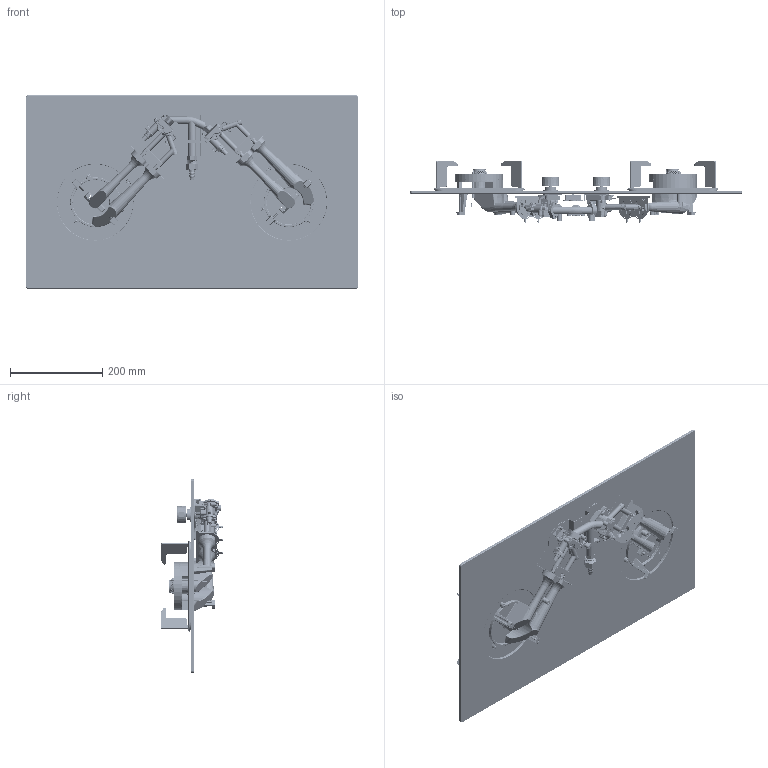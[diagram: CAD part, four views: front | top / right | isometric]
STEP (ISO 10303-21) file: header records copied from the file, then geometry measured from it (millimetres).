
FILE_DESCRIPTION((''),'2;1');
FILE_NAME('VG208_ASM_32_ASM','2024-08-27T16:45:56',('57202'),(''),'CREO PARAMETRIC BY PTC INC, 2020154','CREO PARAMETRIC BY PTC INC, 2020154','');
FILE_SCHEMA(('CONFIG_CONTROL_DESIGN'));
Products named in the file (43): VG208-BLMB_4; VG208-CYP_8; 105LIANTILUTOU20200824_8_2_1; 105QIAOGAI_13_2_2_1; 105QIAOGAI_13_2_2_2; 105QIAOGAI_13_2_2_ASM; 105SANPAIZHONGXIN2_12_2_1; 105NEIPIAN1112_3_2_1; 105LIANTIRANSHAOQI20200914_ASM__ASM; 1050001_ASM_2_ASM_1_ASM; VG208-DHZ_1; VG208-RDO_1; VG208-LUTOU_ASM_3_ASM; BREP_WITH_VOIDS_160470_MIR_6; MANIFOLD_SOLID_BREP_161506_MIR_; VG208-FTPZ_MIR_1_1; VG208-FTPZ_MIR_1_2; VG208-FTPZ_MIR_1_ASM; DK-890SZ-A18C_ASM_1_MIR_ASM_2_ASM; GDFMB_1_MIR_1; HDFMB_1_MIR_1; VG208-FT_ASM_3_ASM; GS01G-FSQ_1; VG208-JQG_35; GS01G-FHHB_1; VG208-LYZJ_1; VG208-LYH_3; VG208-LYG_1; VG208-LAN_YA_ASM_3_ASM; WG310_JINQILUOMU_01A_1_3; WG310_JINQIMIFENGQUAN_01A_1_1; JQG-JIE-TOU_ASM_2_ASM; VG208-FLJ_9_1; VG208-FLJ_9_2; VG208-FLJ_9_3; VG208-FLJ_9_4; VG208-FLJ_9_5; VG208-FLJ_9_ASM; M4-10_ZGLD_1; 2B15-XN_6_1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
Assembly tree (55 placements, depth 6):
  VG208_ASM_32_ASM
    VG208-BLMB_4
    VG208-CYP_8  x2
    VG208-LUTOU_ASM_3_ASM  x2
      1050001_ASM_2_ASM_1_ASM
        105LIANTIRANSHAOQI20200914_ASM__ASM
          105LIANTILUTOU20200824_8_2_1
          105QIAOGAI_13_2_2_ASM
            105QIAOGAI_13_2_2_1
            105QIAOGAI_13_2_2_2
          105SANPAIZHONGXIN2_12_2_1
          105NEIPIAN1112_3_2_1
      VG208-DHZ_1
      VG208-RDO_1
    VG208-FT_ASM_3_ASM  x2
      DK-890SZ-A18C_ASM_1_MIR_ASM_2_ASM
        BREP_WITH_VOIDS_160470_MIR_6
        MANIFOLD_SOLID_BREP_161506_MIR_
        VG208-FTPZ_MIR_1_ASM
          VG208-FTPZ_MIR_1_1
          VG208-FTPZ_MIR_1_2
      GDFMB_1_MIR_1
      HDFMB_1_MIR_1
    GS01G-FSQ_1  x2
    VG208-JQG_35
    GS01G-FHHB_1  x2
    VG208-LYZJ_1
    VG208-LAN_YA_ASM_3_ASM
      VG208-LYH_3
      VG208-LYG_1
    JQG-JIE-TOU_ASM_2_ASM
      WG310_JINQILUOMU_01A_1_3
      WG310_JINQIMIFENGQUAN_01A_1_1
    VG208-FLJ_9_ASM  x2
      VG208-FLJ_9_1
      VG208-FLJ_9_2
      VG208-FLJ_9_3
      VG208-FLJ_9_4
      VG208-FLJ_9_5
    M4-10_ZGLD_1  x6
    2B15-XN_6_ASM  x2
      2B15-XN_6_1
      2B15-XN_6_2
Bounding box: 720 x 133.6 x 420 mm (x, y, z)
Volume: 2240604.2 mm3; surface area: 1277160.2 mm2
Topology: 59 solids, 72 shells, 10843 faces, 28840 edges, 18293 vertices
Faces by surface type: plane 2981, cylinder 2944, bspline 2848, cone 987, torus 957, sphere 108, extrusion 18
Entity records: 253462 total; most frequent: CARTESIAN_POINT 126448, ORIENTED_EDGE 29128, DIRECTION 22821, EDGE_CURVE 14566, VERTEX_POINT 9267, AXIS2_PLACEMENT_3D 9054, EDGE_LOOP 6080, FACE_OUTER_BOUND 5510
